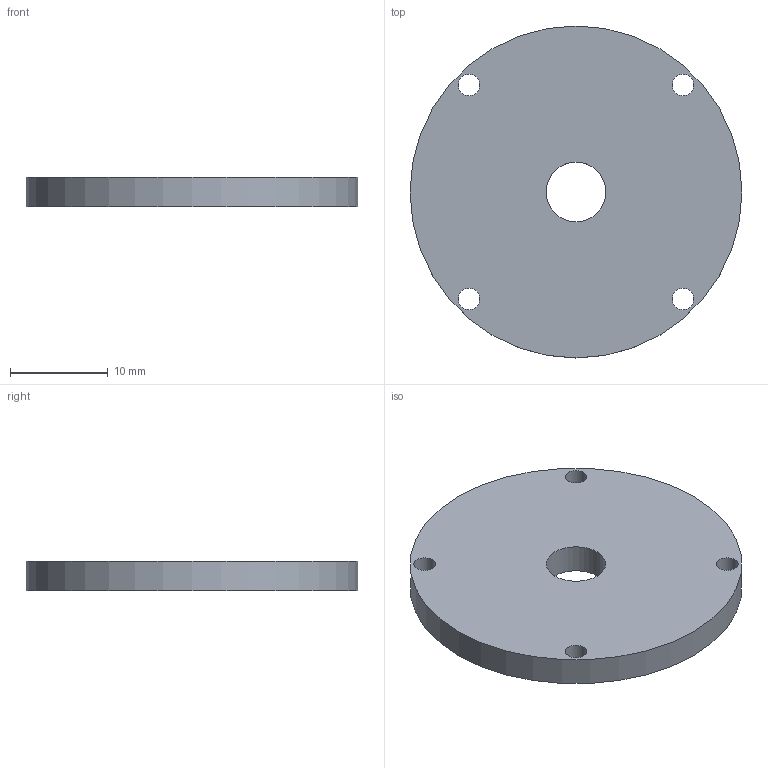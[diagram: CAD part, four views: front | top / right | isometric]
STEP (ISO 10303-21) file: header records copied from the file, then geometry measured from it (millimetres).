
FILE_DESCRIPTION(('Open CASCADE Model'),'2;1');
FILE_NAME('Open CASCADE Shape Model','2026-09-24T19:46:42',('Author'),( 'Open CASCADE'),'Open CASCADE STEP processor 7.8','Open CASCADE 7.8' ,'Unknown');
FILE_SCHEMA(('AUTOMOTIVE_DESIGN { 1 0 10303 214 1 1 1 1 }'));
Length unit declared in the file: millimetre
Products named in the file (1): Open CASCADE STEP translator 7.8 2
Bounding box: 34 x 34 x 3 mm (x, y, z)
Volume: 2590.5 mm3; surface area: 2187.9 mm2
Topology: 1 solids, 1 shells, 8 faces, 18 edges, 12 vertices
Faces by surface type: cylinder 6, plane 2
Full cylindrical faces by diameter (mm): 2.2 x4, 6.1 x1, 34 x1
Entity records: 498 total; most frequent: DIRECTION 84, CARTESIAN_POINT 75, ORIENTED_EDGE 36, PCURVE 36, DEFINITIONAL_REPRESENTATION 36, LINE 30, VECTOR 30, CIRCLE 24
